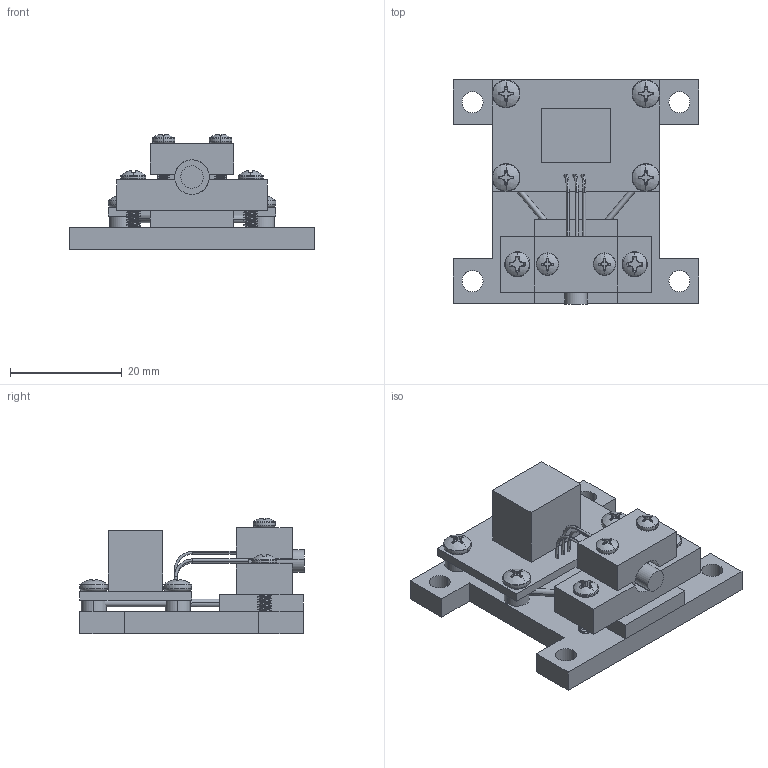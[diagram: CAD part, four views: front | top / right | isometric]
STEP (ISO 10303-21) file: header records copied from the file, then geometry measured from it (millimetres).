
FILE_DESCRIPTION (( 'STEP AP203' ), '1' );
FILE_NAME ('TO Can assem.STEP', '2024-11-21T21:32:04', ( '' ), ( '' ), 'SwSTEP 2.0', 'SolidWorks 2018', '' );
FILE_SCHEMA (( 'CONFIG_CONTROL_DESIGN' ));
Length unit declared in the file: millimetre
Products named in the file (12): TO Can heatsink; 94387A522_JIS Steel Pan Head Screws_94387A522; 93657A201_Nylon Unthreaded Spacer_93657A201; To Can PCB; 92000A017_Passivated 18-8 Stainless Steel Pan Head Phillips Screws_92000A017; 3pin holder 2; TO Can assem; 3 pin laser; connector; TEC; 92000A201_Passivated 18-8 Stainless Steel Pan Head Phillips Screws_92000A201; 3pin holder 1.1
Assembly tree (19 placements, depth 2):
  TO Can assem
    TO Can heatsink
    To Can PCB
    3 pin laser
    93657A201_Nylon Unthreaded Spacer_93657A201  x4
    92000A201_Passivated 18-8 Stainless Steel Pan Head Phillips Screws_92000A201  x4
    TEC
    3pin holder 1.1
    3pin holder 2
    94387A522_JIS Steel Pan Head Screws_94387A522  x2
    connector
    92000A017_Passivated 18-8 Stainless Steel Pan Head Phillips Screws_92000A017  x2
Bounding box: 44 x 40.15 x 20.66 mm (x, y, z)
Volume: 11052.5 mm3; surface area: 10244.9 mm2
Topology: 19 solids, 19 shells, 949 faces, 2575 edges, 1678 vertices
Faces by surface type: cylinder 463, plane 214, bspline 110, cone 96, torus 50, sphere 16
Entity records: 22907 total; most frequent: CARTESIAN_POINT 11523, ORIENTED_EDGE 2314, DIRECTION 1849, EDGE_CURVE 1157, VERTEX_POINT 756, AXIS2_PLACEMENT_3D 709, EDGE_LOOP 483, ADVANCED_FACE 432
